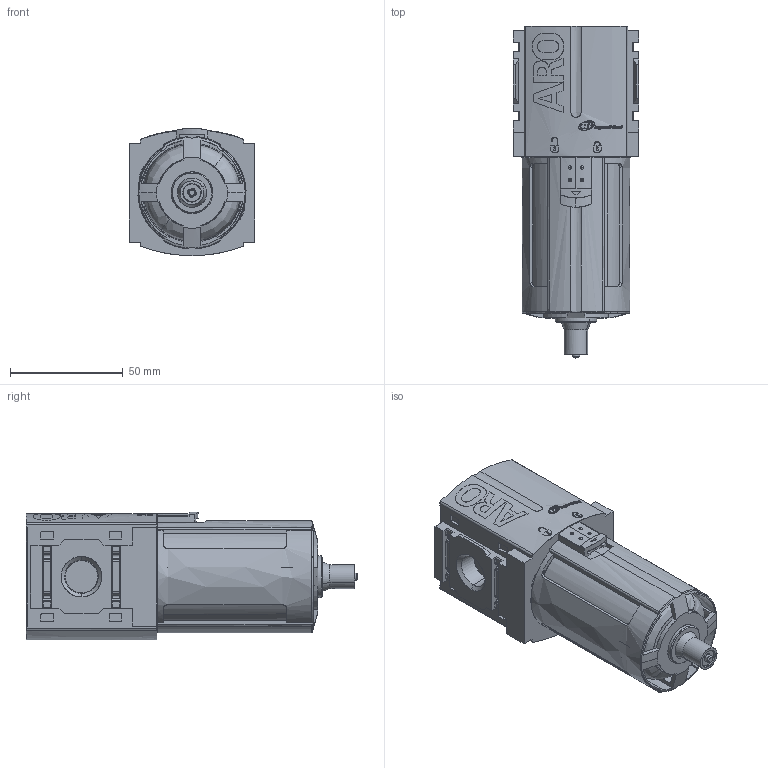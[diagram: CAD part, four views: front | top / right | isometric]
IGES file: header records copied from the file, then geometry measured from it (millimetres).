
Global section: file name: C:\Documents and Settings\szeedyk\Desktop\F352X1-X0X_01.igs; native system: NX V4.0; preprocessor: UGS NX IGES V4.0; date: 20090203.135945; units: inch
Bounding box: 56 x 147.51 x 56.65 mm (x, y, z)
Surface area: 50016.4 mm2 (no closed solid volume)
Topology: 0 solids, 0 shells, 1154 faces, 6747 edges, 6747 vertices
Faces by surface type: bspline 1154
